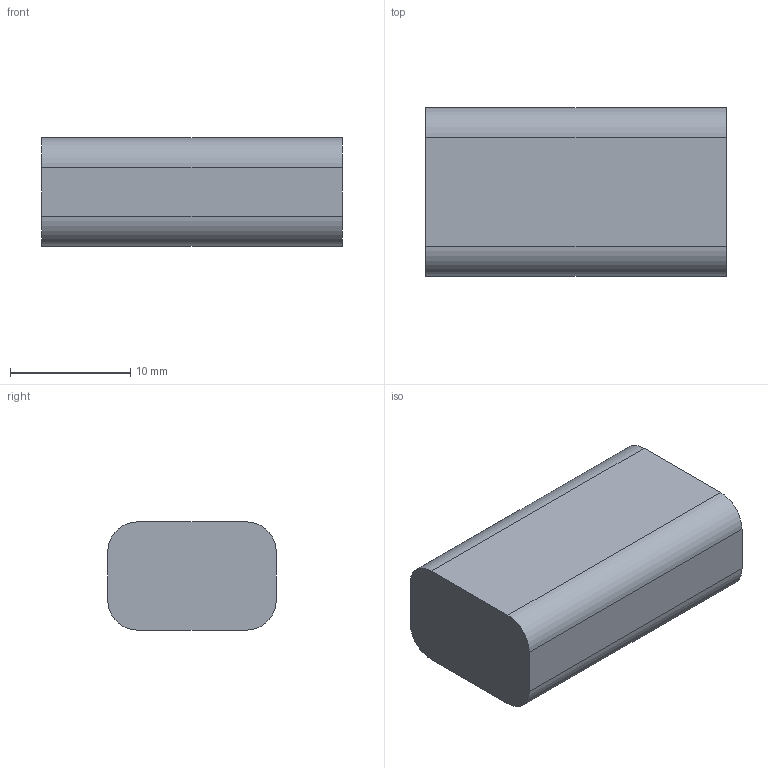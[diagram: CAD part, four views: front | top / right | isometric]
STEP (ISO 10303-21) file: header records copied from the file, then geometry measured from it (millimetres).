
FILE_DESCRIPTION(('Open CASCADE Model'),'2;1');
FILE_NAME('Open CASCADE Shape Model','2026-09-06T11:32:53',('Author'),( 'Open CASCADE'),'Open CASCADE STEP processor 7.7','Open CASCADE 7.7' ,'Unknown');
FILE_SCHEMA(('AUTOMOTIVE_DESIGN { 1 0 10303 214 1 1 1 1 }'));
Length unit declared in the file: millimetre
Products named in the file (1): Open CASCADE STEP translator 7.7 5
Bounding box: 25 x 14 x 9 mm (x, y, z)
Volume: 3015.9 mm3; surface area: 1284 mm2
Topology: 1 solids, 1 shells, 10 faces, 24 edges, 16 vertices
Faces by surface type: plane 6, cylinder 4
Entity records: 630 total; most frequent: CARTESIAN_POINT 123, DIRECTION 98, LINE 56, VECTOR 56, ORIENTED_EDGE 48, PCURVE 48, DEFINITIONAL_REPRESENTATION 48, EDGE_CURVE 24
